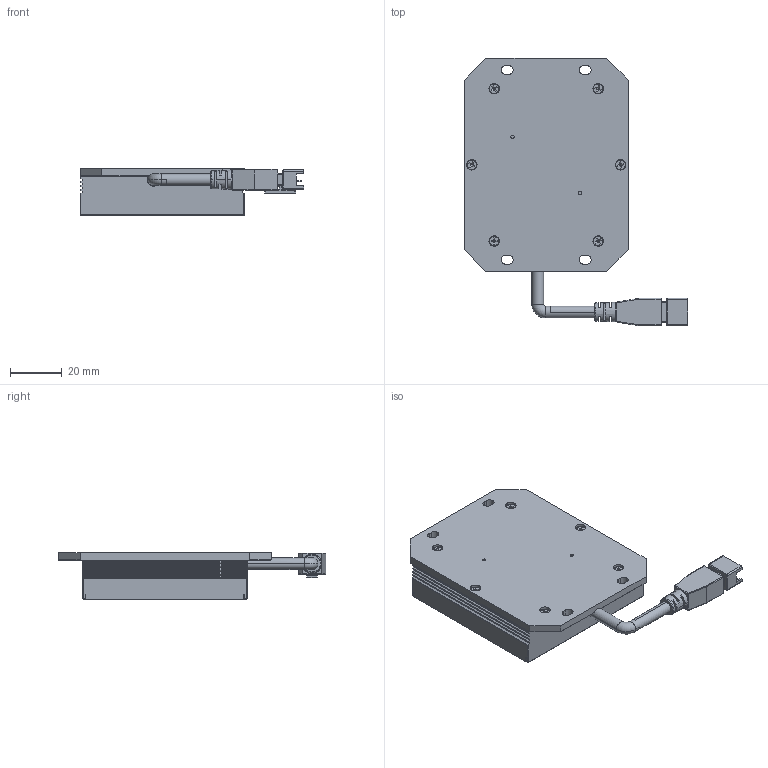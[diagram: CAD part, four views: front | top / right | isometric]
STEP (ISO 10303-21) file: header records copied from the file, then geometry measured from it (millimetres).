
FILE_DESCRIPTION((''),'2;1');
FILE_NAME('PRT0001','2022-11-04T18:24:48',('lizhoupeng'),(''),'CREO PARAMETRIC BY PTC INC, 2020044','CREO PARAMETRIC BY PTC INC, 2020044','');
FILE_SCHEMA(('CONFIG_CONTROL_DESIGN'));
Length unit declared in the file: millimetre
Products named in the file (1): PRT0001
Bounding box: 86.15 x 102.85 x 18 mm (x, y, z)
Volume: 76951.4 mm3; surface area: 18525 mm2
Topology: 1 solids, 16 shells, 791 faces, 1987 edges, 1232 vertices
Faces by surface type: plane 487, cylinder 207, cone 51, torus 30, sphere 8, bspline 8
Entity records: 23773 total; most frequent: CARTESIAN_POINT 4782, ORIENTED_EDGE 3942, DIRECTION 3941, EDGE_CURVE 1971, AXIS2_PLACEMENT_3D 1335, VECTOR 1271, LINE 1271, VERTEX_POINT 1232
